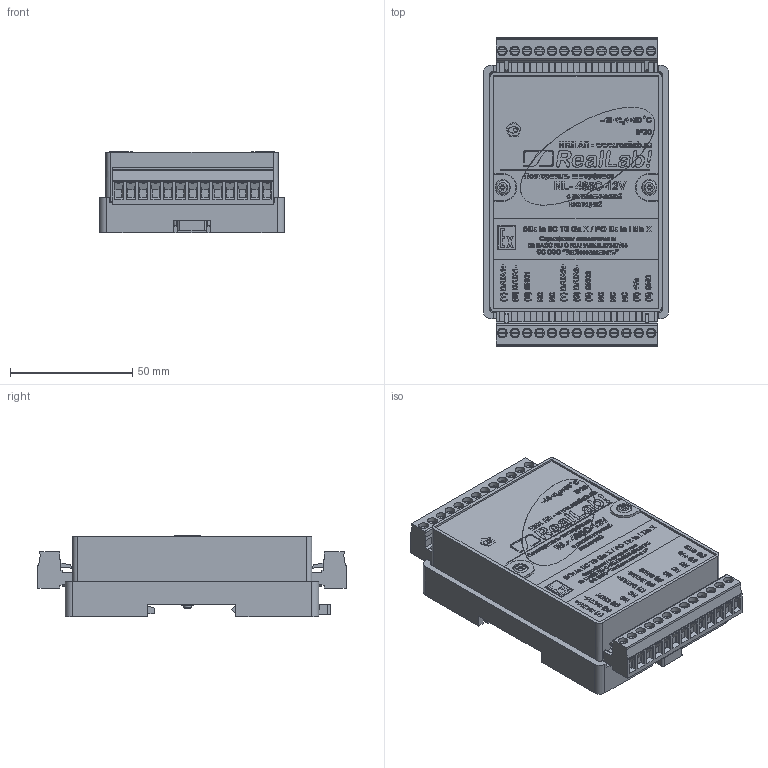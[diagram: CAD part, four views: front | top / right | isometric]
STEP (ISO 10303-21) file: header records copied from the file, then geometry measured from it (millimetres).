
FILE_DESCRIPTION(('STEP AP214'), '1');
FILE_NAME('沓劌錪', '', ('UNSPECIFIED'), ('UNSPECIFIED'), 'C3D Converter', 'C3D Toolkit', '');
FILE_SCHEMA(('AUTOMOTIVE_DESIGN { 1 0 10303 214 3 1 1}'));
Length unit declared in the file: millimetre
Bounding box: 75.8 x 126.21 x 33.5 mm (x, y, z)
Volume: 85377.4 mm3; surface area: 90058.6 mm2
Topology: 29 solids, 29 shells, 6800 faces, 18440 edges, 12175 vertices
Faces by surface type: plane 3448, extrusion 2663, cylinder 502, torus 118, cone 68, bspline 1
Full cylindrical faces by diameter (mm): 1.4 x26, 2.5 x4, 3 x30, 3.38 x2, 3.6 x4, 3.95 x26, 4 x2, 5.6 x2, 6.3 x2, 6.4 x2, 8 x2
Entity records: 297088 total; most frequent: CARTESIAN_POINT 82274, ORIENTED_EDGE 36510, DIRECTION 24514, EDGE_CURVE 18255, VECTOR 13708, VERTEX_POINT 12173, LINE 11045, B_SPLINE_CURVE_WITH_KNOTS 8573
